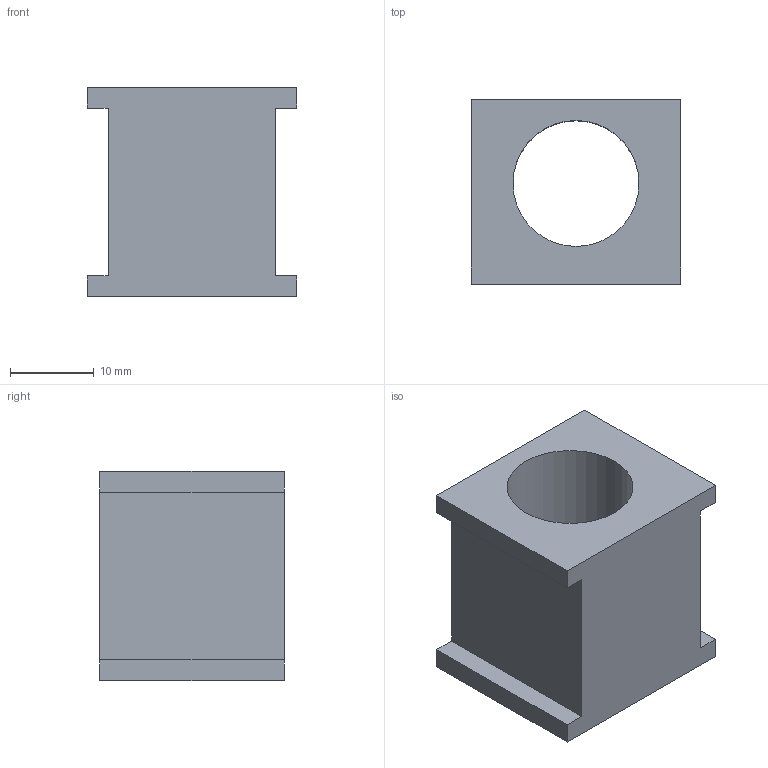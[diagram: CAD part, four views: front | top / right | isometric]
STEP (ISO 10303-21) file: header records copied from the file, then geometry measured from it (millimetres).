
FILE_DESCRIPTION(/* description */ ('POSITION 8'),/* implementation_level */ '2;1');
FILE_NAME(/* name */ 'C:\Users\Apardo\Documents\Proyectos\Dietrich\Proyecto 1\PLATE ROLLING MACHINE\STEP\1.7 position 8.stp',/* time_stamp */ '2020-11-03T20:36:50-04:00',/* author */ ('Apardo'),/* organization */ ('11'),/* preprocessor_version */ 'ST-DEVELOPER v18',/* originating_system */ 'Autodesk Inventor 2020',/* authorisation */ '');
FILE_SCHEMA (('AUTOMOTIVE_DESIGN { 1 0 10303 214 3 1 1 }'));
Length unit declared in the file: millimetre
Products named in the file (1): Part1
Bounding box: 25 x 22 x 25 mm (x, y, z)
Volume: 6543 mm3; surface area: 4268.5 mm2
Topology: 1 solids, 1 shells, 16 faces, 43 edges, 29 vertices
Faces by surface type: plane 15, cylinder 1
Full cylindrical faces by diameter (mm): 15.02 x1
Entity records: 543 total; most frequent: CARTESIAN_POINT 89, ORIENTED_EDGE 86, DIRECTION 80, EDGE_CURVE 43, LINE 40, VECTOR 40, VERTEX_POINT 29, AXIS2_PLACEMENT_3D 20
